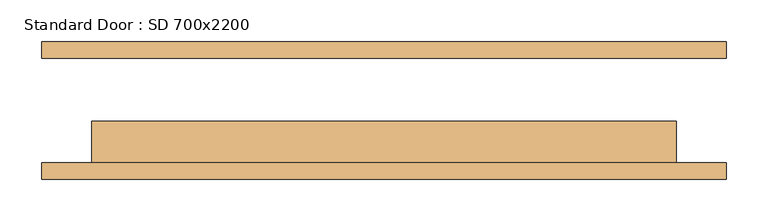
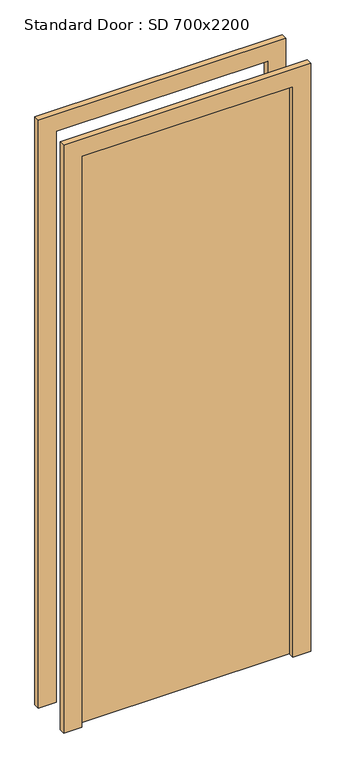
"""IFC4 building model written with IfcOpenShell, lengths in millimetres: door geometry, Standard Door : SD 700x2200."""

from ifc_helpers import new_model, si_unit, frame, origin, origin_with_axes, place, context, project, spatial, polyline, outline, extrude, source, transform, mapped, element, save


def standard_door_sd_700x2200_08e4dbd5(model_context):
    return source(origin(), model_context, "Body", "SweptSolid", [
        extrude(outline(polyline([(2060.0, -410.0), (0.0, -410.0), (0.0, -350.0), (2000.0, -350.0), (2000.0, 350.0), (0.0, 350.0), (0.0, 410.0), (2060.0, 410.0), (2060.0, -410.0)])), frame((0.0, -82.5, 0.0), z_axis=(0.0, 1.0, 0.0), x_axis=(0.0, 0.0, 1.0)), (0.0, 0.0, 1.0), 20.0),
        extrude(outline(polyline([(2060.0, 410.0), (2060.0, -410.0), (0.0, -410.0), (0.0, -350.0), (2000.0, -350.0), (2000.0, 350.0), (0.0, 350.0), (0.0, 410.0), (2060.0, 410.0)])), frame((0.0, 62.5, 0.0), z_axis=(0.0, 1.0, 0.0), x_axis=(0.0, 0.0, 1.0)), (0.0, 0.0, 1.0), 20.0),
        extrude(outline(polyline([(350.0, -12.5), (350.0, -62.5), (-350.0, -62.5), (-350.0, -12.5), (350.0, -12.5)])), origin_with_axes(), (0.0, 0.0, 1.0), 2000.0),
    ])


if __name__ == "__main__":
    model = new_model("IFC4")
    model_context = context("Model", 3, world=origin())
    ifc_project = project(units=[si_unit("LENGTHUNIT", "METRE", prefix="MILLI")], contexts=[model_context])
    site = spatial("IfcSite", under=ifc_project)
    building = spatial("IfcBuilding", under=site)
    placement = place(None, origin())
    standard_door_sd_700x2200_shape = standard_door_sd_700x2200_08e4dbd5(model_context)
    element("IfcDoor", 1, ObjectType="Standard Door : SD 700x2200", at=placement, inside=building, context=model_context, shape_type="MappedRepresentation", body=[
        mapped(standard_door_sd_700x2200_shape, transform((0.0, 0.0, 0.0), x_axis=(1.0, 0.0, 0.0), y_axis=(0.0, 1.0, 0.0), z_axis=(0.0, 0.0, 1.0))),
    ])
    save(model, "model.ifc")
